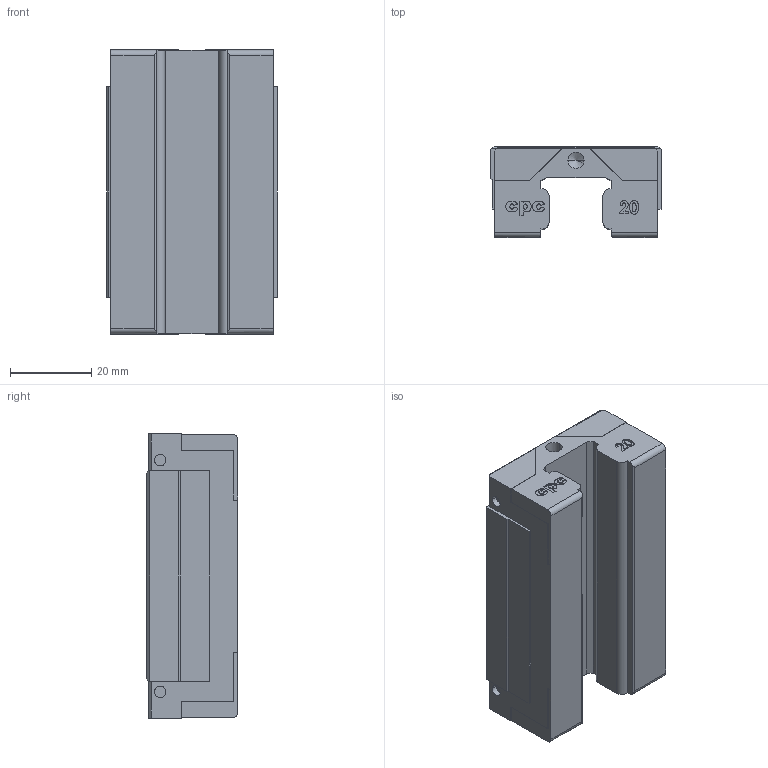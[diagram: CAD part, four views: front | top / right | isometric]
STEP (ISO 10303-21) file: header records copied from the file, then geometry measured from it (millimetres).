
FILE_DESCRIPTION (( 'STEP AP203' ), '1' );
FILE_NAME ('AR20MN.STEP', '2009-08-03T10:39:18', ( 'cpc' ), ( '' ), 'SwSTEP 2.0', 'SolidWorks 2007', '' );
FILE_SCHEMA (( 'CONFIG_CONTROL_DESIGN' ));
Length unit declared in the file: millimetre
Products named in the file (1): AR20MN
Bounding box: 42 x 22.5 x 70.2 mm (x, y, z)
Volume: 48244.4 mm3; surface area: 13313.7 mm2
Topology: 1 solids, 1 shells, 274 faces, 724 edges, 470 vertices
Faces by surface type: plane 122, bspline 90, cylinder 42, cone 20
Entity records: 13213 total; most frequent: CARTESIAN_POINT 6987, ORIENTED_EDGE 1424, DIRECTION 978, EDGE_CURVE 712, VERTEX_POINT 470, VECTOR 432, LINE 432, EDGE_LOOP 304
